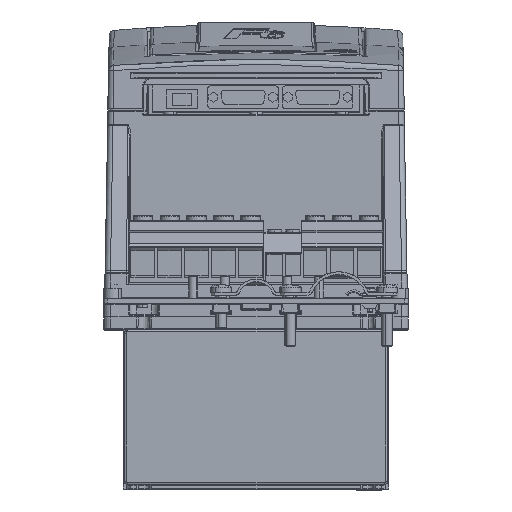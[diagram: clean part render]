
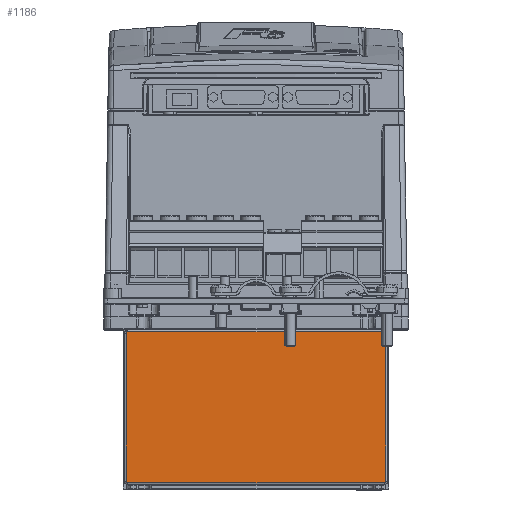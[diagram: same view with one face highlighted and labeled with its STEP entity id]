
A CAD part, top view. The second image highlights one B-rep face of the part: STEP entity #1186.
In plain terms, the highlighted planar face has unit normal (0, 0, 1).
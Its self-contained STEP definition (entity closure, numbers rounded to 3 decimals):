
#241 = CARTESIAN_POINT ( 'NONE',  ( 71.5, -4.65, 60. ) ) ;
#567 = EDGE_CURVE ( 'NONE', #43080, #44054, #72604, .T. ) ;
#1186 = ADVANCED_FACE ( 'NONE', ( #31200 ), #113955, .T. ) ;
#3490 = ORIENTED_EDGE ( 'NONE', *, *, #567, .T. ) ;
#13124 = VERTEX_POINT ( 'NONE', #46168 ) ;
#14562 = VERTEX_POINT ( 'NONE', #17269 ) ;
#14996 = VECTOR ( 'NONE', #103792, 1000. ) ;
#17268 = CIRCLE ( 'NONE', #84343, 1. ) ;
#17269 = CARTESIAN_POINT ( 'NONE',  ( -72.5, -4.65, 60. ) ) ;
#18770 = EDGE_CURVE ( 'NONE', #13124, #39292, #95394, .T. ) ;
#19350 = EDGE_CURVE ( 'NONE', #61522, #13124, #17268, .T. ) ;
#21696 = ORIENTED_EDGE ( 'NONE', *, *, #18770, .T. ) ;
#23785 = CARTESIAN_POINT ( 'NONE',  ( -72.5, -87.15, 60. ) ) ;
#24267 = EDGE_CURVE ( 'NONE', #65035, #31069, #42580, .T. ) ;
#30614 = CARTESIAN_POINT ( 'NONE',  ( 0., -45.9, 60. ) ) ;
#31069 = VERTEX_POINT ( 'NONE', #74849 ) ;
#31200 = FACE_OUTER_BOUND ( 'NONE', #78319, .T. ) ;
#34163 = CARTESIAN_POINT ( 'NONE',  ( 0., -3.65, 60. ) ) ;
#34313 = CIRCLE ( 'NONE', #101407, 1. ) ;
#35443 = CARTESIAN_POINT ( 'NONE',  ( -71.5, -88.15, 60. ) ) ;
#39292 = VERTEX_POINT ( 'NONE', #109320 ) ;
#40040 = EDGE_CURVE ( 'NONE', #39292, #65035, #45473, .T. ) ;
#40819 = LINE ( 'NONE', #79793, #83306 ) ;
#41681 = EDGE_CURVE ( 'NONE', #31069, #14562, #34313, .T. ) ;
#41983 = DIRECTION ( 'NONE',  ( 0., -1., 0. ) ) ;
#42052 = ORIENTED_EDGE ( 'NONE', *, *, #41681, .T. ) ;
#42580 = LINE ( 'NONE', #34163, #66562 ) ;
#43080 = VERTEX_POINT ( 'NONE', #23785 ) ;
#44054 = VERTEX_POINT ( 'NONE', #35443 ) ;
#45473 = CIRCLE ( 'NONE', #78023, 1. ) ;
#45790 = AXIS2_PLACEMENT_3D ( 'NONE', #109120, #77230, #113221 ) ;
#46168 = CARTESIAN_POINT ( 'NONE',  ( 72.5, -87.15, 60. ) ) ;
#48068 = EDGE_CURVE ( 'NONE', #14562, #43080, #40819, .T. ) ;
#49198 = DIRECTION ( 'NONE',  ( 1., 0., 0. ) ) ;
#54836 = DIRECTION ( 'NONE',  ( 1., 0., 0. ) ) ;
#55403 = DIRECTION ( 'NONE',  ( 0., 0., 1. ) ) ;
#56217 = ORIENTED_EDGE ( 'NONE', *, *, #24267, .T. ) ;
#61522 = VERTEX_POINT ( 'NONE', #116426 ) ;
#65035 = VERTEX_POINT ( 'NONE', #96285 ) ;
#66562 = VECTOR ( 'NONE', #96633, 1000. ) ;
#67138 = DIRECTION ( 'NONE',  ( 1., 0., 0. ) ) ;
#67222 = DIRECTION ( 'NONE',  ( 0., 0., 1. ) ) ;
#69573 = ORIENTED_EDGE ( 'NONE', *, *, #48068, .T. ) ;
#71305 = VECTOR ( 'NONE', #101285, 1000. ) ;
#71908 = CARTESIAN_POINT ( 'NONE',  ( 0., -88.15, 60. ) ) ;
#72604 = CIRCLE ( 'NONE', #45790, 1. ) ;
#74849 = CARTESIAN_POINT ( 'NONE',  ( -71.5, -3.65, 60. ) ) ;
#77230 = DIRECTION ( 'NONE',  ( 0., 0., 1. ) ) ;
#78023 = AXIS2_PLACEMENT_3D ( 'NONE', #241, #55403, #54836 ) ;
#78319 = EDGE_LOOP ( 'NONE', ( #21696, #116627, #56217, #42052, #69573, #3490, #106209, #109573 ) ) ;
#79793 = CARTESIAN_POINT ( 'NONE',  ( -72.5, -45.9, 60. ) ) ;
#81696 = DIRECTION ( 'NONE',  ( 1., 0., 0. ) ) ;
#83306 = VECTOR ( 'NONE', #41983, 1000. ) ;
#84343 = AXIS2_PLACEMENT_3D ( 'NONE', #109273, #90687, #81696 ) ;
#86229 = AXIS2_PLACEMENT_3D ( 'NONE', #30614, #67222, #49198 ) ;
#90687 = DIRECTION ( 'NONE',  ( 0., 0., 1. ) ) ;
#94741 = CARTESIAN_POINT ( 'NONE',  ( -71.5, -4.65, 60. ) ) ;
#94807 = CARTESIAN_POINT ( 'NONE',  ( 72.5, -45.9, 60. ) ) ;
#95394 = LINE ( 'NONE', #94807, #14996 ) ;
#95923 = DIRECTION ( 'NONE',  ( 0., 0., 1. ) ) ;
#96285 = CARTESIAN_POINT ( 'NONE',  ( 71.5, -3.65, 60. ) ) ;
#96633 = DIRECTION ( 'NONE',  ( -1., 0., 0. ) ) ;
#101285 = DIRECTION ( 'NONE',  ( 1., 0., 0. ) ) ;
#101407 = AXIS2_PLACEMENT_3D ( 'NONE', #94741, #95923, #67138 ) ;
#103792 = DIRECTION ( 'NONE',  ( 0., 1., 0. ) ) ;
#106209 = ORIENTED_EDGE ( 'NONE', *, *, #113486, .T. ) ;
#109120 = CARTESIAN_POINT ( 'NONE',  ( -71.5, -87.15, 60. ) ) ;
#109273 = CARTESIAN_POINT ( 'NONE',  ( 71.5, -87.15, 60. ) ) ;
#109320 = CARTESIAN_POINT ( 'NONE',  ( 72.5, -4.65, 60. ) ) ;
#109573 = ORIENTED_EDGE ( 'NONE', *, *, #19350, .T. ) ;
#109712 = LINE ( 'NONE', #71908, #71305 ) ;
#113221 = DIRECTION ( 'NONE',  ( 1., 0., 0. ) ) ;
#113486 = EDGE_CURVE ( 'NONE', #44054, #61522, #109712, .T. ) ;
#113955 = PLANE ( 'NONE',  #86229 ) ;
#116426 = CARTESIAN_POINT ( 'NONE',  ( 71.5, -88.15, 60. ) ) ;
#116627 = ORIENTED_EDGE ( 'NONE', *, *, #40040, .T. ) ;
